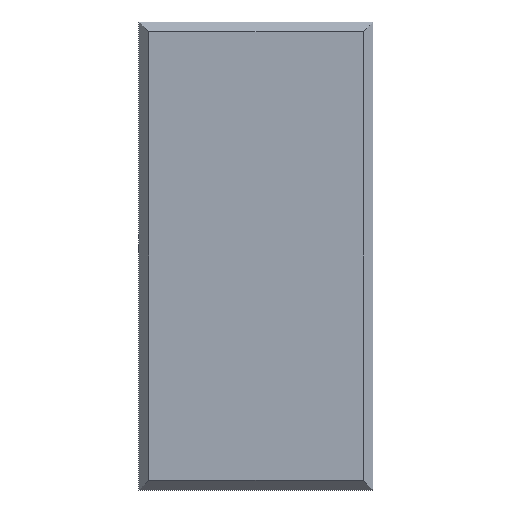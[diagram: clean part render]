
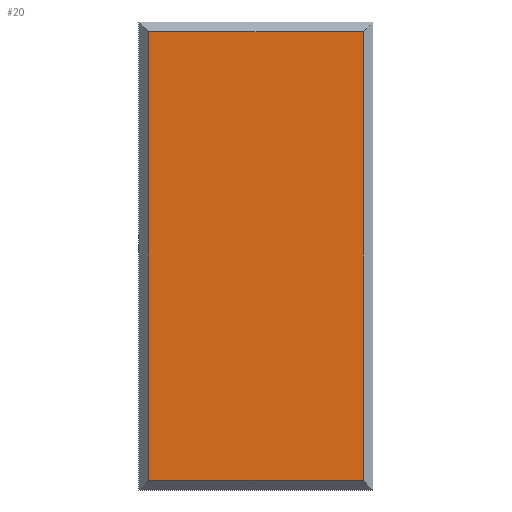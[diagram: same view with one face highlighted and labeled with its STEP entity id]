
A CAD part, front view. The second image highlights one B-rep face of the part: STEP entity #20.
In plain terms, the highlighted planar face has unit normal (0, -1, 0).
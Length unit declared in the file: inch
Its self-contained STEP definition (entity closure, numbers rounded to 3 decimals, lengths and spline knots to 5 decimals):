
#20=ADVANCED_FACE('',(#30),#142,.T.);
#30=FACE_OUTER_BOUND('',#40,.T.);
#40=EDGE_LOOP('',(#68,#69,#70,#71));
#68=ORIENTED_EDGE('',*,*,#84,.F.);
#69=ORIENTED_EDGE('',*,*,#95,.F.);
#70=ORIENTED_EDGE('',*,*,#91,.F.);
#71=ORIENTED_EDGE('',*,*,#88,.F.);
#84=EDGE_CURVE('',#124,#125,#104,.T.);
#88=EDGE_CURVE('',#125,#128,#108,.T.);
#91=EDGE_CURVE('',#128,#130,#111,.T.);
#95=EDGE_CURVE('',#130,#124,#115,.T.);
#104=B_SPLINE_CURVE_WITH_KNOTS('',1,(#285,#286),.UNSPECIFIED.,.F.,.F.,(2,
2),(0.,11.5),.UNSPECIFIED.);
#108=B_SPLINE_CURVE_WITH_KNOTS('',1,(#293,#294),.UNSPECIFIED.,.F.,.F.,(2,
2),(0.,5.5),.UNSPECIFIED.);
#111=B_SPLINE_CURVE_WITH_KNOTS('',1,(#299,#300),.UNSPECIFIED.,.F.,.F.,(2,
2),(0.,11.5),.UNSPECIFIED.);
#115=B_SPLINE_CURVE_WITH_KNOTS('',1,(#307,#308),.UNSPECIFIED.,.F.,.F.,(2,
2),(0.,5.5),.UNSPECIFIED.);
#124=VERTEX_POINT('',#273);
#125=VERTEX_POINT('',#274);
#128=VERTEX_POINT('',#277);
#130=VERTEX_POINT('',#279);
#142=PLANE('',#243);
#243=AXIS2_PLACEMENT_3D('',#269,#256,$);
#256=DIRECTION('',(0.,-1.,0.));
#269=CARTESIAN_POINT('',(-3.30472,-0.5,6.90472));
#273=CARTESIAN_POINT('',(-2.75,-0.5,-5.75));
#274=CARTESIAN_POINT('',(-2.75,-0.5,5.75));
#277=CARTESIAN_POINT('',(2.75,-0.5,5.75));
#279=CARTESIAN_POINT('',(2.75,-0.5,-5.75));
#285=CARTESIAN_POINT('',(-2.75,-0.5,-5.75));
#286=CARTESIAN_POINT('',(-2.75,-0.5,5.75));
#293=CARTESIAN_POINT('',(-2.75,-0.5,5.75));
#294=CARTESIAN_POINT('',(2.75,-0.5,5.75));
#299=CARTESIAN_POINT('',(2.75,-0.5,5.75));
#300=CARTESIAN_POINT('',(2.75,-0.5,-5.75));
#307=CARTESIAN_POINT('',(2.75,-0.5,-5.75));
#308=CARTESIAN_POINT('',(-2.75,-0.5,-5.75));
